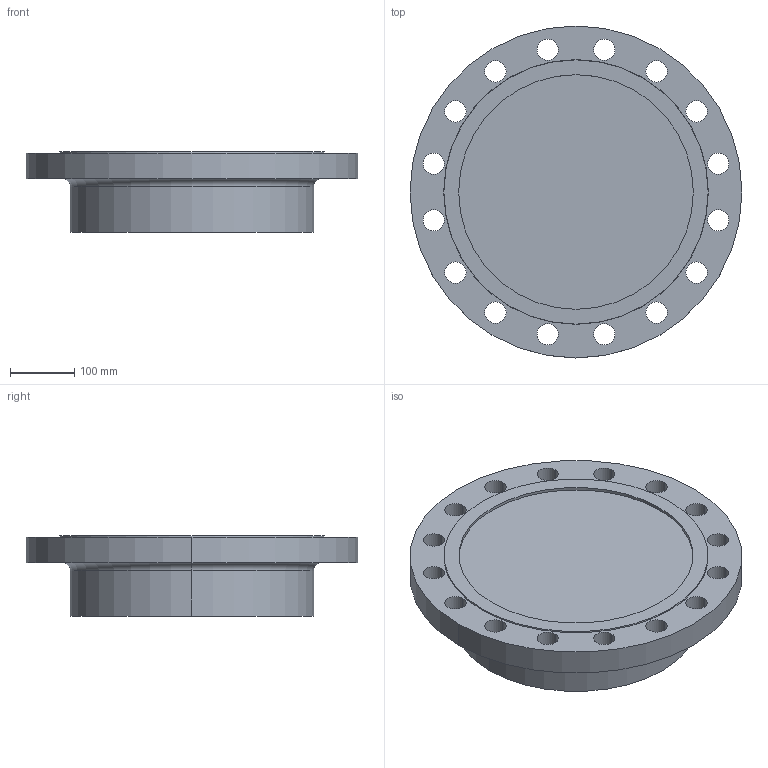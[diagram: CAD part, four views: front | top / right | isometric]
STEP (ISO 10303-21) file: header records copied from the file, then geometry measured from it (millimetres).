
FILE_DESCRIPTION (( 'STEP AP214' ), '1' );
FILE_NAME ('PN40 DN300 Type 21(i) - Type F Face.STEP', '2019-01-05T20:16:43', ( '' ), ( '' ), 'SwSTEP 2.0', 'SolidWorks 2019', '' );
FILE_SCHEMA (( 'AUTOMOTIVE_DESIGN' ));
Length unit declared in the file: millimetre
Products named in the file (1): PN40 DN300 Type 21(i) - Type F Face
Bounding box: 515 x 515 x 125 mm (x, y, z)
Volume: 16932670.9 mm3; surface area: 620133.7 mm2
Topology: 1 solids, 1 shells, 47 faces, 124 edges, 82 vertices
Faces by surface type: cylinder 38, plane 5, torus 2, cone 2
Entity records: 1604 total; most frequent: DIRECTION 304, CARTESIAN_POINT 254, ORIENTED_EDGE 248, AXIS2_PLACEMENT_3D 132, EDGE_CURVE 124, CIRCLE 84, EDGE_LOOP 82, VERTEX_POINT 82
